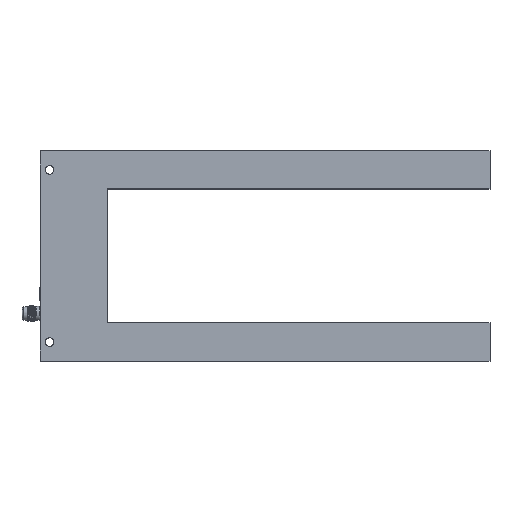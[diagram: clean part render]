
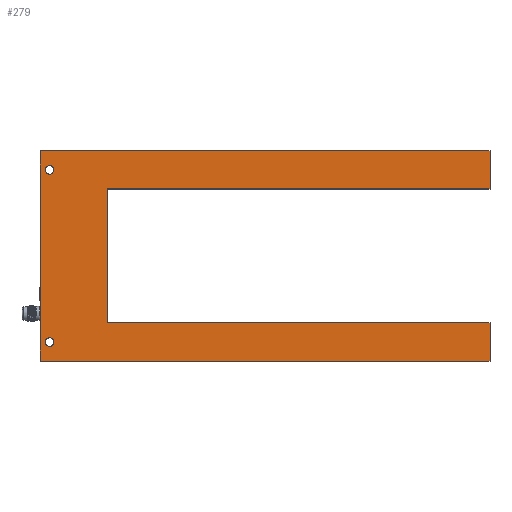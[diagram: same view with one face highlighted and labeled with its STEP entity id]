
A CAD part, top view. The second image highlights one B-rep face of the part: STEP entity #279.
In plain terms, the highlighted planar face has unit normal (0, 0, 1).
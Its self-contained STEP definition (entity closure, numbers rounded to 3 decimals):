
#279=ADVANCED_FACE('',(#565,#566,#567),#568,.T.);
#565=FACE_BOUND('',#2235,.T.);
#566=FACE_BOUND('',#2236,.T.);
#567=FACE_OUTER_BOUND('',#2237,.T.);
#568=PLANE('',#2238);
#2235=EDGE_LOOP('',(#2966,#2967));
#2236=EDGE_LOOP('',(#2968,#2969));
#2237=EDGE_LOOP('',(#2970,#2971,#2972,#2973,#2974,#2975,#2976,#2977,#2978,#2979,#2980,#2981));
#2238=AXIS2_PLACEMENT_3D('',#2982,#2983,#2984);
#2966=ORIENTED_EDGE('',*,*,#3070,.T.);
#2967=ORIENTED_EDGE('',*,*,#3145,.T.);
#2968=ORIENTED_EDGE('',*,*,#3282,.T.);
#2969=ORIENTED_EDGE('',*,*,#3285,.T.);
#2970=ORIENTED_EDGE('',*,*,#3127,.T.);
#2971=ORIENTED_EDGE('',*,*,#3026,.T.);
#2972=ORIENTED_EDGE('',*,*,#3216,.T.);
#2973=ORIENTED_EDGE('',*,*,#3058,.T.);
#2974=ORIENTED_EDGE('',*,*,#3139,.T.);
#2975=ORIENTED_EDGE('',*,*,#3080,.T.);
#2976=ORIENTED_EDGE('',*,*,#3123,.T.);
#2977=ORIENTED_EDGE('',*,*,#3265,.T.);
#2978=ORIENTED_EDGE('',*,*,#3132,.T.);
#2979=ORIENTED_EDGE('',*,*,#3228,.T.);
#2980=ORIENTED_EDGE('',*,*,#3184,.T.);
#2981=ORIENTED_EDGE('',*,*,#3007,.T.);
#2982=CARTESIAN_POINT('',(192.5,-45.0,10.0));
#2983=DIRECTION('',(0.0,0.0,1.0));
#2984=DIRECTION('',(1.0,0.0,0.0));
#3007=EDGE_CURVE('',#3306,#3307,#3308,.T.);
#3026=EDGE_CURVE('',#3334,#3339,#3341,.T.);
#3058=EDGE_CURVE('',#3397,#3398,#3399,.T.);
#3070=EDGE_CURVE('',#3412,#3417,#3419,.T.);
#3080=EDGE_CURVE('',#3430,#3435,#3437,.T.);
#3123=EDGE_CURVE('',#3435,#3504,#3506,.T.);
#3127=EDGE_CURVE('',#3307,#3334,#3510,.T.);
#3132=EDGE_CURVE('',#3513,#3517,#3519,.T.);
#3139=EDGE_CURVE('',#3398,#3430,#3526,.T.);
#3145=EDGE_CURVE('',#3417,#3412,#3535,.T.);
#3184=EDGE_CURVE('',#3588,#3306,#3592,.T.);
#3216=EDGE_CURVE('',#3339,#3397,#3638,.T.);
#3228=EDGE_CURVE('',#3517,#3588,#3651,.T.);
#3265=EDGE_CURVE('',#3504,#3513,#3692,.T.);
#3282=EDGE_CURVE('',#3708,#3710,#3712,.T.);
#3285=EDGE_CURVE('',#3710,#3708,#3715,.T.);
#3306=VERTEX_POINT('',#3738);
#3307=VERTEX_POINT('',#3739);
#3308=LINE('',#3740,#3741);
#3334=VERTEX_POINT('',#3774);
#3339=VERTEX_POINT('',#3781);
#3341=LINE('',#3784,#3785);
#3397=VERTEX_POINT('',#3954);
#3398=VERTEX_POINT('',#3955);
#3399=LINE('',#3956,#3957);
#3412=VERTEX_POINT('',#4018);
#3417=VERTEX_POINT('',#4024);
#3419=CIRCLE('',#4027,2.25);
#3430=VERTEX_POINT('',#4038);
#3435=VERTEX_POINT('',#4045);
#3437=LINE('',#4048,#4049);
#3504=VERTEX_POINT('',#4198);
#3506=LINE('',#4201,#4202);
#3510=LINE('',#4208,#4209);
#3513=VERTEX_POINT('',#4212);
#3517=VERTEX_POINT('',#4218);
#3519=LINE('',#4221,#4222);
#3526=LINE('',#4230,#4231);
#3535=CIRCLE('',#4240,2.25);
#3588=VERTEX_POINT('',#4345);
#3592=LINE('',#4351,#4352);
#3638=LINE('',#4532,#4533);
#3651=LINE('',#4566,#4567);
#3692=LINE('',#4770,#4771);
#3708=VERTEX_POINT('',#4895);
#3710=VERTEX_POINT('',#4898);
#3712=CIRCLE('',#4901,2.25);
#3715=CIRCLE('',#4904,2.25);
#3738=CARTESIAN_POINT('',(-17.5,-55.0,10.0));
#3739=CARTESIAN_POINT('',(217.5,-55.0,10.0));
#3740=CARTESIAN_POINT('',(35.0,-55.0,10.0));
#3741=VECTOR('',#4924,1.0);
#3774=CARTESIAN_POINT('',(217.5,-35.0,10.0));
#3781=CARTESIAN_POINT('',(17.515,-35.0,10.0));
#3784=CARTESIAN_POINT('',(192.5,-35.0,10.0));
#3785=VECTOR('',#4947,1.0);
#3954=CARTESIAN_POINT('',(17.515,35.0,10.0));
#3955=CARTESIAN_POINT('',(217.5,35.0,10.0));
#3956=CARTESIAN_POINT('',(35.0,35.0,10.0));
#3957=VECTOR('',#4972,1.0);
#4018=CARTESIAN_POINT('',(-10.25,-45.0,10.0));
#4024=CARTESIAN_POINT('',(-14.75,-45.0,10.0));
#4027=AXIS2_PLACEMENT_3D('',#4982,#4983,#4984);
#4038=CARTESIAN_POINT('',(217.5,55.0,10.0));
#4045=CARTESIAN_POINT('',(-17.5,55.0,10.0));
#4048=CARTESIAN_POINT('',(192.5,55.0,10.0));
#4049=VECTOR('',#5000,1.0);
#4198=CARTESIAN_POINT('',(-17.5,40.0,10.0));
#4201=CARTESIAN_POINT('',(-17.5,45.0,10.0));
#4202=VECTOR('',#5058,1.0);
#4208=CARTESIAN_POINT('',(217.5,-45.0,10.0));
#4209=VECTOR('',#5061,1.0);
#4212=CARTESIAN_POINT('',(-17.485,40.0,10.0));
#4218=CARTESIAN_POINT('',(-17.485,-40.0,10.0));
#4221=CARTESIAN_POINT('',(-17.485,0.0,10.0));
#4222=VECTOR('',#5065,1.);
#4230=CARTESIAN_POINT('',(217.5,45.0,10.0));
#4231=VECTOR('',#5079,1.0);
#4240=AXIS2_PLACEMENT_3D('',#5089,#5090,#5091);
#4345=CARTESIAN_POINT('',(-17.5,-40.0,10.0));
#4351=CARTESIAN_POINT('',(-17.5,-45.0,10.0));
#4352=VECTOR('',#5138,1.0);
#4532=CARTESIAN_POINT('',(17.515,0.0,10.0));
#4533=VECTOR('',#5159,1.);
#4566=CARTESIAN_POINT('',(17.5,-40.0,10.0));
#4567=VECTOR('',#5170,1.0);
#4770=CARTESIAN_POINT('',(17.5,40.0,10.0));
#4771=VECTOR('',#5193,1.0);
#4895=CARTESIAN_POINT('',(-10.25,45.0,10.0));
#4898=CARTESIAN_POINT('',(-14.75,45.0,10.0));
#4901=AXIS2_PLACEMENT_3D('',#5197,#5198,#5199);
#4904=AXIS2_PLACEMENT_3D('',#5200,#5201,#5202);
#4924=DIRECTION('',(1.0,0.0,0.0));
#4947=DIRECTION('',(-1.0,0.0,0.0));
#4972=DIRECTION('',(1.0,0.0,0.0));
#4982=CARTESIAN_POINT('',(-12.5,-45.0,10.0));
#4983=DIRECTION('',(0.0,0.,-1.0));
#4984=DIRECTION('',(1.0,0.0,0.0));
#5000=DIRECTION('',(-1.0,0.0,0.0));
#5058=DIRECTION('',(0.0,-1.0,0.0));
#5061=DIRECTION('',(0.0,1.0,0.0));
#5065=DIRECTION('',(0.,-1.0,0.));
#5079=DIRECTION('',(0.0,1.0,0.0));
#5089=CARTESIAN_POINT('',(-12.5,-45.0,10.0));
#5090=DIRECTION('',(0.0,0.,-1.0));
#5091=DIRECTION('',(1.0,0.0,0.0));
#5138=DIRECTION('',(0.0,-1.0,0.));
#5159=DIRECTION('',(0.,1.0,0.));
#5170=DIRECTION('',(-1.0,0.0,0.0));
#5193=DIRECTION('',(1.0,0.0,0.0));
#5197=CARTESIAN_POINT('',(-12.5,45.0,10.0));
#5198=DIRECTION('',(0.0,0.0,-1.0));
#5199=DIRECTION('',(1.0,0.0,0.0));
#5200=CARTESIAN_POINT('',(-12.5,45.0,10.0));
#5201=DIRECTION('',(0.0,0.0,-1.0));
#5202=DIRECTION('',(1.0,0.0,0.0));
